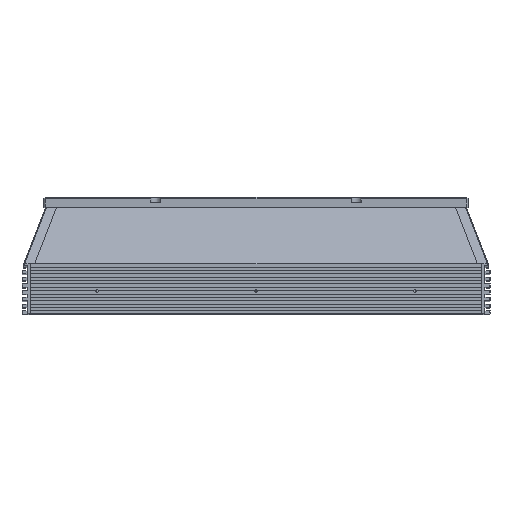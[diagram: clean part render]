
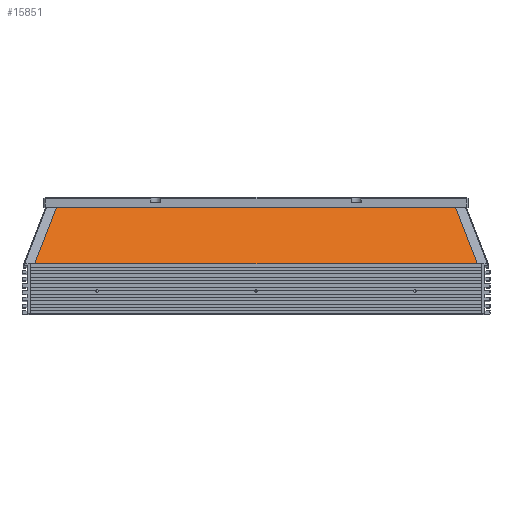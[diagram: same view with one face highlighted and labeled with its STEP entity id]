
A CAD part, top view. The second image highlights one B-rep face of the part: STEP entity #15851.
In plain terms, the highlighted planar face has unit normal (0, 0.358, 0.934).
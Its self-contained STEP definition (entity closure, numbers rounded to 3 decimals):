
#886 = ORIENTED_EDGE ( 'NONE', *, *, #18263, .T. ) ;
#1150 = EDGE_LOOP ( 'NONE', ( #12689, #4066, #886, #23556 ) ) ;
#3997 = FACE_OUTER_BOUND ( 'NONE', #1150, .T. ) ;
#4066 = ORIENTED_EDGE ( 'NONE', *, *, #23696, .T. ) ;
#4202 = LINE ( 'NONE', #8244, #8904 ) ;
#5293 = LINE ( 'NONE', #23112, #9655 ) ;
#5901 = LINE ( 'NONE', #24711, #23414 ) ;
#8244 = CARTESIAN_POINT ( 'NONE',  ( 49.596, 139.483, 97.974 ) ) ;
#8904 = VECTOR ( 'NONE', #24377, 1000. ) ;
#8933 = CARTESIAN_POINT ( 'NONE',  ( 275., 64., 126.949 ) ) ;
#8940 = CARTESIAN_POINT ( 'NONE',  ( 7.57, 30., 140. ) ) ;
#9655 = VECTOR ( 'NONE', #25789, 1000. ) ;
#11261 = EDGE_CURVE ( 'NONE', #16678, #25239, #5293, .T. ) ;
#12689 = ORIENTED_EDGE ( 'NONE', *, *, #11261, .T. ) ;
#13330 = CARTESIAN_POINT ( 'NONE',  ( 259.379, 64., 126.949 ) ) ;
#13332 = CARTESIAN_POINT ( 'NONE',  ( 275., 64.07, 126.922 ) ) ;
#13831 = EDGE_CURVE ( 'NONE', #16678, #18427, #5901, .T. ) ;
#14665 = CARTESIAN_POINT ( 'NONE',  ( 272.43, 30., 140. ) ) ;
#15465 = DIRECTION ( 'NONE',  ( -1., 0., 0. ) ) ;
#15556 = AXIS2_PLACEMENT_3D ( 'NONE', #13332, #15627, #24872 ) ;
#15627 = DIRECTION ( 'NONE',  ( 0., -0.358, -0.934 ) ) ;
#15851 = ADVANCED_FACE ( 'NONE', ( #3997 ), #20494, .F. ) ;
#16678 = VERTEX_POINT ( 'NONE', #14665 ) ;
#17905 = DIRECTION ( 'NONE',  ( -1., 0., 0. ) ) ;
#18263 = EDGE_CURVE ( 'NONE', #23038, #18427, #4202, .T. ) ;
#18301 = LINE ( 'NONE', #8933, #22581 ) ;
#18427 = VERTEX_POINT ( 'NONE', #8940 ) ;
#20494 = PLANE ( 'NONE',  #15556 ) ;
#22581 = VECTOR ( 'NONE', #17905, 1000. ) ;
#23038 = VERTEX_POINT ( 'NONE', #27030 ) ;
#23112 = CARTESIAN_POINT ( 'NONE',  ( 261.133, 59.431, 128.703 ) ) ;
#23414 = VECTOR ( 'NONE', #15465, 1000. ) ;
#23556 = ORIENTED_EDGE ( 'NONE', *, *, #13831, .F. ) ;
#23696 = EDGE_CURVE ( 'NONE', #25239, #23038, #18301, .T. ) ;
#24377 = DIRECTION ( 'NONE',  ( -0.337, -0.879, 0.337 ) ) ;
#24711 = CARTESIAN_POINT ( 'NONE',  ( 275., 30., 140. ) ) ;
#24872 = DIRECTION ( 'NONE',  ( 0., 0.934, -0.358 ) ) ;
#25239 = VERTEX_POINT ( 'NONE', #13330 ) ;
#25789 = DIRECTION ( 'NONE',  ( -0.337, 0.879, -0.337 ) ) ;
#27030 = CARTESIAN_POINT ( 'NONE',  ( 20.621, 64., 126.949 ) ) ;
